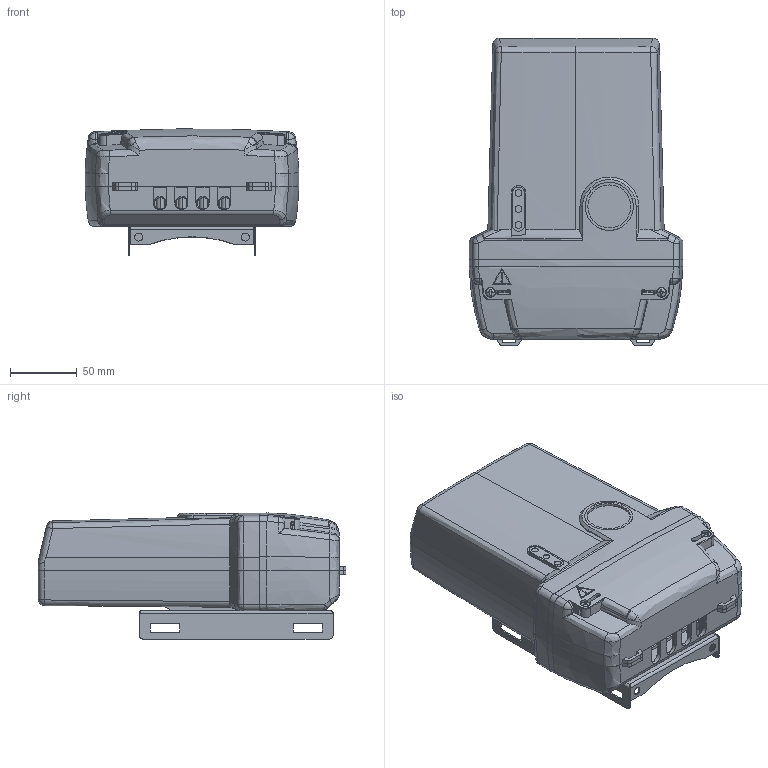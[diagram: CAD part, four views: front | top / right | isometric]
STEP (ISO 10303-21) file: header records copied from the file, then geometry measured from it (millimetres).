
FILE_DESCRIPTION (( 'STEP AP214' ), '1' );
FILE_NAME ('C4.STEP', '2025-02-12T10:12:21', ( '' ), ( '' ), 'SwSTEP 2.0', 'SolidWorks 2019', '' );
FILE_SCHEMA (( 'AUTOMOTIVE_DESIGN' ));
Length unit declared in the file: millimetre
Products named in the file (1): C4
Bounding box: 160.01 x 230.3 x 94.47 mm (x, y, z)
Volume: 438428.4 mm3; surface area: 362158.7 mm2
Topology: 42 solids, 42 shells, 4520 faces, 12765 edges, 8212 vertices
Faces by surface type: plane 2413, cylinder 1348, bspline 371, cone 186, torus 102, sphere 100
Entity records: 162285 total; most frequent: CARTESIAN_POINT 48129, ORIENTED_EDGE 25352, DIRECTION 22536, EDGE_CURVE 12676, VERTEX_POINT 8204, AXIS2_PLACEMENT_3D 7755, VECTOR 7026, LINE 7026
